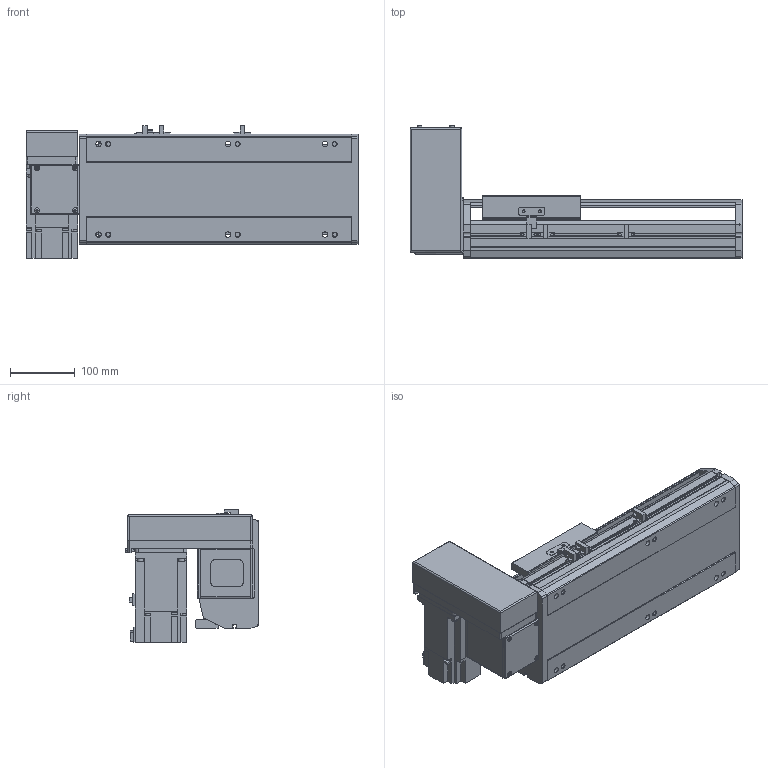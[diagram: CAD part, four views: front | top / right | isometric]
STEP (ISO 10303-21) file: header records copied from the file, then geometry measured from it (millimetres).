
FILE_DESCRIPTION(/* description */ ('STEP AP214'),/* implementation_level */ '2;1');
FILE_NAME(/* name */ 'PBS170-P40-S150-RU-T75-C1-N(0)',/* time_stamp */ '2022-06-08T07:55:09+02:00',/* author */ ('License CC BY-ND 4.0'),/* organization */ ('CADENAS'),/* preprocessor_version */ 'ST-DEVELOPER v18.102',/* originating_system */ 'PARTsolutions',/* authorisation */ ' ');
FILE_SCHEMA (('AUTOMOTIVE_DESIGN {1 0 10303 214 3 1 1}'));
Length unit declared in the file: millimetre
Products named in the file (7): PBS170-P40-S150-RU-T75-C1-N(0); PBS170_sensor; PBS170_plant; PBS170_sliser; T75-p1; PBS170T-RU_motors; PBS170-S150()_body
Assembly tree (8 placements, depth 2):
  PBS170-P40-S150-RU-T75-C1-N(0)
    PBS170_sensor  x3
    PBS170_plant
    PBS170_sliser
    T75-p1
    PBS170T-RU_motors
    PBS170-S150()_body
Bounding box: 513 x 206 x 205.3 mm (x, y, z)
Volume: 4934499.5 mm3; surface area: 709228.3 mm2
Topology: 8 solids, 8 shells, 1002 faces, 2675 edges, 1744 vertices
Faces by surface type: plane 657, cylinder 299, cone 36, sphere 8, torus 2
Full cylindrical faces by diameter (mm): 3.242 x4, 4 x2, 4.4 x4, 4.5 x6, 4.917 x4, 6 x9, 6.647 x14, 7 x2, 7.5 x4, 8 x8, 8.5 x6, 10 x4, 10.5 x6, 11 x2, 30 x2, 40 x1, 70 x1
Entity records: 28828 total; most frequent: CARTESIAN_POINT 5153, DIRECTION 4950, ORIENTED_EDGE 4728, EDGE_CURVE 2364, AXIS2_PLACEMENT_3D 1687, VERTEX_POINT 1610, LINE 1576, VECTOR 1576
